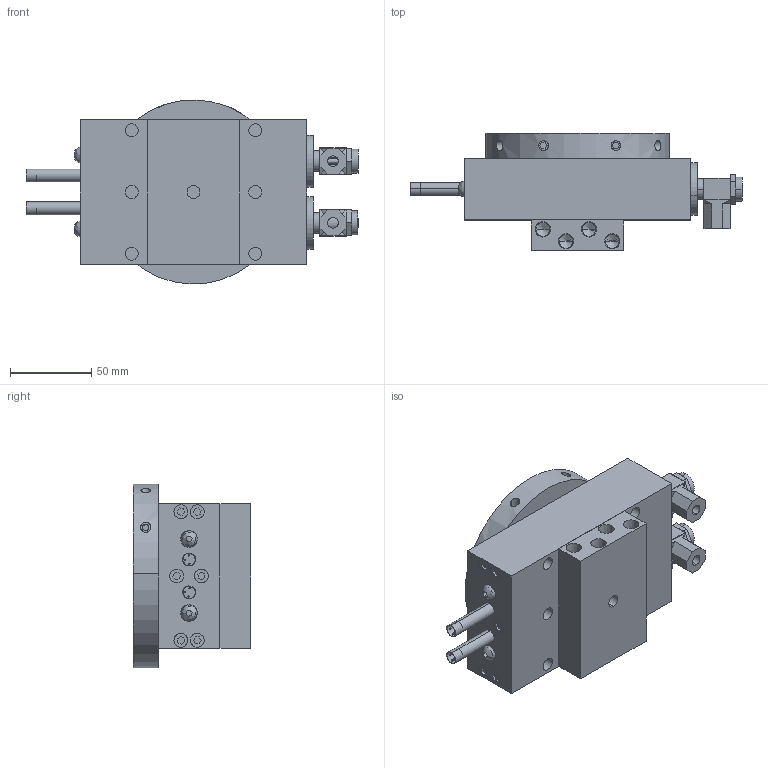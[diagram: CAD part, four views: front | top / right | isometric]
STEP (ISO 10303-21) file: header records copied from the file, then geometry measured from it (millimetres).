
FILE_DESCRIPTION (( 'STEP AP203' ), '1' );
FILE_NAME ('AGR-4 MANFLD in IN.STEP', '2014-11-05T19:49:49', ( 'setup' ), ( '' ), 'SwSTEP 2.0', 'SolidWorks 2013', '' );
FILE_SCHEMA (( 'CONFIG_CONTROL_DESIGN' ));
Length unit declared in the file: inch
Products named in the file (21): AGR-4 MANFLD SQREW2; AGR-4 MANFLD FLOW SQREW2; AGR-4 MANFLD RND NUT1; AGR-4 MANFLD PROX SWITCH; AGR-4 MANFLD NUT 4; AGR-4 MANFLD NUT1; AGR-4 MANFLD LR125 MANIFOLD; AGR-4 MANFLD FLOW SQREW; AGR-4 MANFLD NUT2; AGR-4 MANFLD in IN; AGR-4 MANFLD ABSR13; AGR-4 MANFLD CENTER; AGR-4 MANFLD NUT 5; AGR-4 MANFLD FLOW; AGR-4 MANFLD SQREW1; AGR-4 MANFLD ROTARY PLATFORM; AGR-4 MANFLD 180 BODY; AGR-4 MANFLD NUT3; AGR-4 MANFLD NUT 6; AGR-4 MANFLD FLOW SQREW1; AGR-4 MANFLD ABSR14
Assembly tree (22 placements, depth 2):
  AGR-4 MANFLD in IN
    AGR-4 MANFLD ABSR14
    AGR-4 MANFLD RND NUT1  x2
    AGR-4 MANFLD NUT1
    AGR-4 MANFLD NUT2
    AGR-4 MANFLD CENTER
    AGR-4 MANFLD FLOW
    AGR-4 MANFLD ROTARY PLATFORM
    AGR-4 MANFLD NUT3
    AGR-4 MANFLD FLOW SQREW1
    AGR-4 MANFLD FLOW SQREW2
    AGR-4 MANFLD NUT 4
    AGR-4 MANFLD FLOW SQREW
    AGR-4 MANFLD ABSR13
    AGR-4 MANFLD NUT 5
    AGR-4 MANFLD SQREW1
    AGR-4 MANFLD 180 BODY
    AGR-4 MANFLD NUT 6
    AGR-4 MANFLD SQREW2
    AGR-4 MANFLD PROX SWITCH  x2
    AGR-4 MANFLD LR125 MANIFOLD
Bounding box: 204.85 x 72.62 x 113.5 mm (x, y, z)
Volume: 728240.8 mm3; surface area: 118432.2 mm2
Topology: 28 solids, 28 shells, 532 faces, 1151 edges, 744 vertices
Faces by surface type: plane 299, cylinder 211, cone 20, bspline 2
Entity records: 16821 total; most frequent: CARTESIAN_POINT 3087, DIRECTION 2515, ORIENTED_EDGE 2174, EDGE_CURVE 1087, AXIS2_PLACEMENT_3D 938, VERTEX_POINT 706, VECTOR 639, LINE 639
